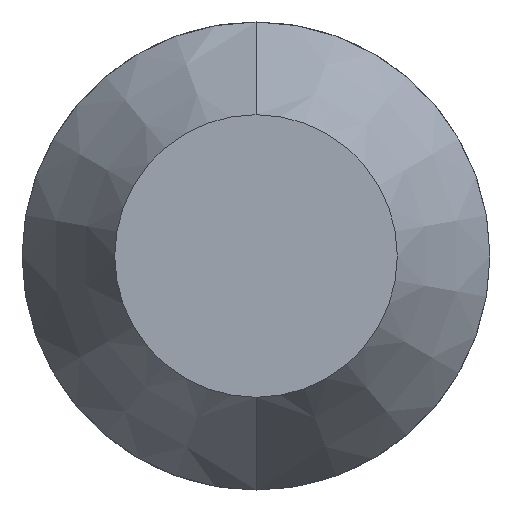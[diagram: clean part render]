
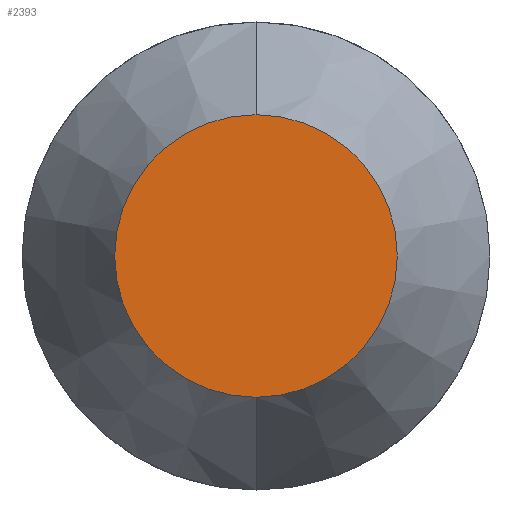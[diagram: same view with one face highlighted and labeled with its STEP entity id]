
A CAD part, front view. The second image highlights one B-rep face of the part: STEP entity #2393.
In plain terms, the highlighted planar face has unit normal (0, -1, 0).
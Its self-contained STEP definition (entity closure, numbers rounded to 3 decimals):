
#10 = DIRECTION ( 'NONE',  ( 0., -1., 0. ) ) ;
#30 = DIRECTION ( 'NONE',  ( 0., 0., -1. ) ) ;
#113 = CARTESIAN_POINT ( 'NONE',  ( 56., -88.55, 0.43 ) ) ;
#313 = CARTESIAN_POINT ( 'NONE',  ( 56., -88.55, 1.65 ) ) ;
#417 = EDGE_LOOP ( 'NONE', ( #2368, #1084 ) ) ;
#685 = AXIS2_PLACEMENT_3D ( 'NONE', #1004, #2141, #713 ) ;
#713 = DIRECTION ( 'NONE',  ( 0., 0., -1. ) ) ;
#896 = EDGE_CURVE ( 'NONE', #1160, #2217, #2939, .T. ) ;
#989 = EDGE_CURVE ( 'NONE', #2217, #1160, #1666, .T. ) ;
#1004 = CARTESIAN_POINT ( 'NONE',  ( 58.02, -88.55, 1.65 ) ) ;
#1084 = ORIENTED_EDGE ( 'NONE', *, *, #896, .T. ) ;
#1160 = VERTEX_POINT ( 'NONE', #113 ) ;
#1193 = AXIS2_PLACEMENT_3D ( 'NONE', #313, #10, #30 ) ;
#1401 = DIRECTION ( 'NONE',  ( 0., -1., 0. ) ) ;
#1659 = DIRECTION ( 'NONE',  ( 0., 0., -1. ) ) ;
#1666 = CIRCLE ( 'NONE', #1193, 1.22 ) ;
#1970 = AXIS2_PLACEMENT_3D ( 'NONE', #3448, #1401, #1659 ) ;
#2095 = CARTESIAN_POINT ( 'NONE',  ( 56., -88.55, 2.87 ) ) ;
#2141 = DIRECTION ( 'NONE',  ( 0., -1., 0. ) ) ;
#2217 = VERTEX_POINT ( 'NONE', #2095 ) ;
#2368 = ORIENTED_EDGE ( 'NONE', *, *, #989, .T. ) ;
#2393 = ADVANCED_FACE ( 'NONE', ( #2414 ), #3576, .T. ) ;
#2414 = FACE_OUTER_BOUND ( 'NONE', #417, .T. ) ;
#2939 = CIRCLE ( 'NONE', #1970, 1.22 ) ;
#3448 = CARTESIAN_POINT ( 'NONE',  ( 56., -88.55, 1.65 ) ) ;
#3576 = PLANE ( 'NONE',  #685 ) ;
